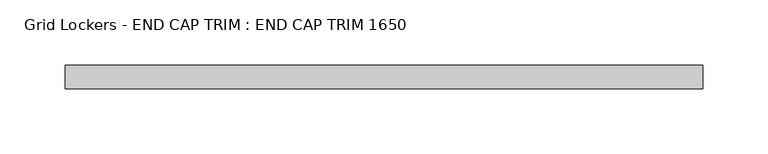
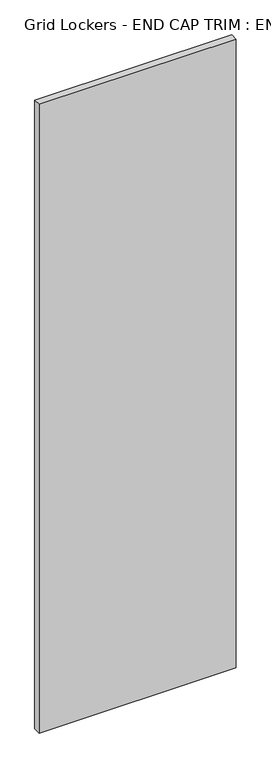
"""IFC4 building model written with IfcOpenShell, lengths in millimetres: furniture geometry, Grid Lockers - END CAP TRIM : END CAP TRIM 1650."""

from ifc_helpers import new_model, si_unit, origin, origin_with_axes, place, context, project, spatial, polyline, outline, extrude, source, transform, mapped, element, save


def grid_lockers_end_cap_trim_end_cap_trim_1650_aa5d95b0(model_context):
    return source(origin(), model_context, "Body", "SweptSolid", [
        extrude(outline(polyline([(490.0, -18.0), (0.0, -18.0), (0.0, 0.0), (490.0, 0.0), (490.0, -18.0)])), origin_with_axes(), (0.0, 0.0, 1.0), 1650.0),
    ])


if __name__ == "__main__":
    model = new_model("IFC4")
    model_context = context("Model", 3, world=origin())
    ifc_project = project(units=[si_unit("LENGTHUNIT", "METRE", prefix="MILLI")], contexts=[model_context])
    site = spatial("IfcSite", under=ifc_project)
    building = spatial("IfcBuilding", under=site)
    placement = place(None, origin())
    grid_lockers_end_cap_trim_end_cap_trim_1650_shape = grid_lockers_end_cap_trim_end_cap_trim_1650_aa5d95b0(model_context)
    element("IfcFurniture", 1, ObjectType="Grid Lockers - END CAP TRIM : END CAP TRIM 1650", at=placement, inside=building, context=model_context, shape_type="MappedRepresentation", body=[
        mapped(grid_lockers_end_cap_trim_end_cap_trim_1650_shape, transform((0.0, 0.0, 0.0), x_axis=(1.0, 0.0, 0.0), y_axis=(0.0, 1.0, 0.0), z_axis=(0.0, 0.0, 1.0))),
    ])
    save(model, "model.ifc")
